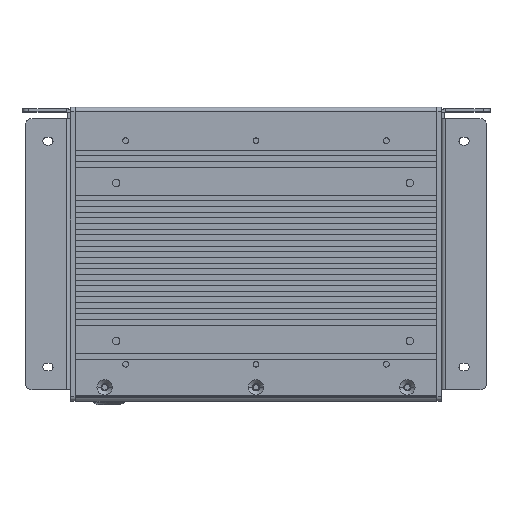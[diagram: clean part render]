
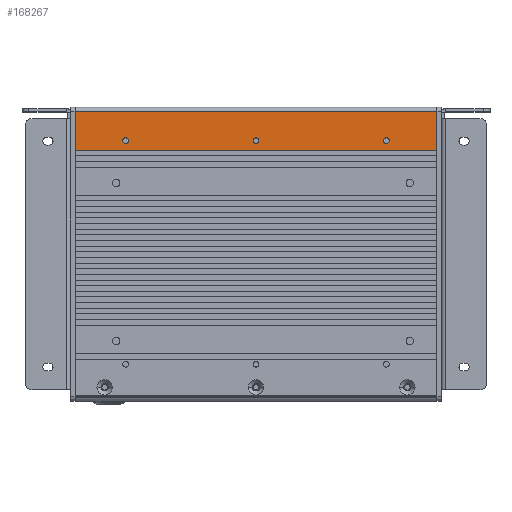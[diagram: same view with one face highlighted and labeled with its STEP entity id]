
A CAD part, top view. The second image highlights one B-rep face of the part: STEP entity #168267.
In plain terms, the highlighted planar face has unit normal (0, 0, 1) as drawn and (0, 1, 0) by its records, which use the part's own axes.
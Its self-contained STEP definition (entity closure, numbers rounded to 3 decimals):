
#2745 = FACE_BOUND ( 'NONE', #117772, .T. ) ;
#4390 = CARTESIAN_POINT ( 'NONE',  ( -50.22, 43.5, -58.98 ) ) ;
#4750 = EDGE_CURVE ( 'NONE', #197120, #17628, #39538, .T. ) ;
#5861 = VECTOR ( 'NONE', #89707, 1000. ) ;
#9374 = ORIENTED_EDGE ( 'NONE', *, *, #100954, .T. ) ;
#10229 = VECTOR ( 'NONE', #132321, 1000. ) ;
#10703 = EDGE_LOOP ( 'NONE', ( #22378, #69985, #143194, #197860 ) ) ;
#12932 = DIRECTION ( 'NONE',  ( 0., 0., -1. ) ) ;
#17628 = VERTEX_POINT ( 'NONE', #87681 ) ;
#19015 = EDGE_CURVE ( 'NONE', #17628, #197120, #46781, .T. ) ;
#20002 = AXIS2_PLACEMENT_3D ( 'NONE', #155017, #104976, #12932 ) ;
#21394 = VERTEX_POINT ( 'NONE', #29788 ) ;
#22378 = ORIENTED_EDGE ( 'NONE', *, *, #42675, .F. ) ;
#24329 = EDGE_CURVE ( 'NONE', #133634, #156736, #35083, .T. ) ;
#24345 = CARTESIAN_POINT ( 'NONE',  ( -50.22, 43.5, 1.25 ) ) ;
#29788 = CARTESIAN_POINT ( 'NONE',  ( -63., 43.5, -80.1 ) ) ;
#30749 = EDGE_CURVE ( 'NONE', #156736, #133634, #157674, .T. ) ;
#30866 = EDGE_LOOP ( 'NONE', ( #116841, #122531 ) ) ;
#32074 = DIRECTION ( 'NONE',  ( 0., -1., 0. ) ) ;
#32369 = FACE_BOUND ( 'NONE', #30866, .T. ) ;
#33376 = CARTESIAN_POINT ( 'NONE',  ( -62.5, 43.5, 80.1 ) ) ;
#33565 = DIRECTION ( 'NONE',  ( 0., 0., -1. ) ) ;
#35083 = CIRCLE ( 'NONE', #155889, 1.25 ) ;
#38592 = DIRECTION ( 'NONE',  ( 0., 0., -1. ) ) ;
#39497 = DIRECTION ( 'NONE',  ( -1., 0., 0. ) ) ;
#39538 = CIRCLE ( 'NONE', #20002, 1.25 ) ;
#42220 = VERTEX_POINT ( 'NONE', #189947 ) ;
#42675 = EDGE_CURVE ( 'NONE', #42220, #90505, #118310, .T. ) ;
#45060 = DIRECTION ( 'NONE',  ( 0., 0., 1. ) ) ;
#46781 = CIRCLE ( 'NONE', #180653, 1.25 ) ;
#48969 = AXIS2_PLACEMENT_3D ( 'NONE', #98955, #128660, #38592 ) ;
#52920 = DIRECTION ( 'NONE',  ( 0., -1., 0. ) ) ;
#53502 = EDGE_CURVE ( 'NONE', #122281, #200188, #75819, .T. ) ;
#64016 = FACE_OUTER_BOUND ( 'NONE', #10703, .T. ) ;
#64860 = CARTESIAN_POINT ( 'NONE',  ( -50.22, 43.5, -1.25 ) ) ;
#66756 = CARTESIAN_POINT ( 'NONE',  ( -50.22, 43.5, 57.73 ) ) ;
#69985 = ORIENTED_EDGE ( 'NONE', *, *, #107040, .F. ) ;
#71770 = DIRECTION ( 'NONE',  ( 0., -1., 0. ) ) ;
#75351 = CARTESIAN_POINT ( 'NONE',  ( -62.5, 43.5, -80.1 ) ) ;
#75611 = CARTESIAN_POINT ( 'NONE',  ( -63., 43.5, 80.1 ) ) ;
#75819 = CIRCLE ( 'NONE', #115140, 1.25 ) ;
#80639 = CARTESIAN_POINT ( 'NONE',  ( -50.22, 43.5, 0. ) ) ;
#85975 = AXIS2_PLACEMENT_3D ( 'NONE', #87155, #71770, #196465 ) ;
#86952 = VECTOR ( 'NONE', #45060, 1000. ) ;
#87155 = CARTESIAN_POINT ( 'NONE',  ( -50.22, 43.5, 0. ) ) ;
#87681 = CARTESIAN_POINT ( 'NONE',  ( -50.22, 43.5, 58.98 ) ) ;
#89707 = DIRECTION ( 'NONE',  ( -1., 0., 0. ) ) ;
#90505 = VERTEX_POINT ( 'NONE', #75611 ) ;
#94797 = DIRECTION ( 'NONE',  ( 0., -1., 0. ) ) ;
#97726 = ORIENTED_EDGE ( 'NONE', *, *, #24329, .T. ) ;
#98799 = DIRECTION ( 'NONE',  ( 0., 0., -1. ) ) ;
#98955 = CARTESIAN_POINT ( 'NONE',  ( -50.22, 43.5, -57.73 ) ) ;
#100954 = EDGE_CURVE ( 'NONE', #200188, #122281, #189373, .T. ) ;
#102081 = EDGE_LOOP ( 'NONE', ( #9374, #117875 ) ) ;
#104976 = DIRECTION ( 'NONE',  ( 0., -1., 0. ) ) ;
#107040 = EDGE_CURVE ( 'NONE', #155551, #42220, #147637, .T. ) ;
#108377 = VECTOR ( 'NONE', #39497, 1000. ) ;
#112144 = FACE_BOUND ( 'NONE', #102081, .T. ) ;
#115140 = AXIS2_PLACEMENT_3D ( 'NONE', #127496, #176468, #98799 ) ;
#116841 = ORIENTED_EDGE ( 'NONE', *, *, #4750, .T. ) ;
#117772 = EDGE_LOOP ( 'NONE', ( #97726, #165988 ) ) ;
#117875 = ORIENTED_EDGE ( 'NONE', *, *, #53502, .T. ) ;
#118310 = LINE ( 'NONE', #195902, #108377 ) ;
#120855 = CARTESIAN_POINT ( 'NONE',  ( -63., 43.5, 80.1 ) ) ;
#122281 = VERTEX_POINT ( 'NONE', #160745 ) ;
#122531 = ORIENTED_EDGE ( 'NONE', *, *, #19015, .T. ) ;
#122855 = LINE ( 'NONE', #120855, #86952 ) ;
#125196 = DIRECTION ( 'NONE',  ( 0., 0., -1. ) ) ;
#127496 = CARTESIAN_POINT ( 'NONE',  ( -50.22, 43.5, -57.73 ) ) ;
#128660 = DIRECTION ( 'NONE',  ( 0., -1., 0. ) ) ;
#132321 = DIRECTION ( 'NONE',  ( 0., 0., 1. ) ) ;
#133634 = VERTEX_POINT ( 'NONE', #64860 ) ;
#137213 = EDGE_CURVE ( 'NONE', #21394, #90505, #122855, .T. ) ;
#139743 = PLANE ( 'NONE',  #151198 ) ;
#143194 = ORIENTED_EDGE ( 'NONE', *, *, #181146, .T. ) ;
#147637 = LINE ( 'NONE', #196640, #10229 ) ;
#151198 = AXIS2_PLACEMENT_3D ( 'NONE', #33376, #94797, #156092 ) ;
#155017 = CARTESIAN_POINT ( 'NONE',  ( -50.22, 43.5, 57.73 ) ) ;
#155551 = VERTEX_POINT ( 'NONE', #158315 ) ;
#155889 = AXIS2_PLACEMENT_3D ( 'NONE', #80639, #52920, #33565 ) ;
#156092 = DIRECTION ( 'NONE',  ( 0., 0., -1. ) ) ;
#156424 = CARTESIAN_POINT ( 'NONE',  ( -50.22, 43.5, 56.48 ) ) ;
#156736 = VERTEX_POINT ( 'NONE', #24345 ) ;
#157674 = CIRCLE ( 'NONE', #85975, 1.25 ) ;
#158315 = CARTESIAN_POINT ( 'NONE',  ( -46., 43.5, -80.1 ) ) ;
#160745 = CARTESIAN_POINT ( 'NONE',  ( -50.22, 43.5, -56.48 ) ) ;
#165988 = ORIENTED_EDGE ( 'NONE', *, *, #30749, .T. ) ;
#168267 = ADVANCED_FACE ( 'NONE', ( #64016, #2745, #112144, #32369 ), #139743, .F. ) ;
#176468 = DIRECTION ( 'NONE',  ( 0., -1., 0. ) ) ;
#180653 = AXIS2_PLACEMENT_3D ( 'NONE', #66756, #32074, #125196 ) ;
#181146 = EDGE_CURVE ( 'NONE', #155551, #21394, #182662, .T. ) ;
#182662 = LINE ( 'NONE', #75351, #5861 ) ;
#189373 = CIRCLE ( 'NONE', #48969, 1.25 ) ;
#189947 = CARTESIAN_POINT ( 'NONE',  ( -46., 43.5, 80.1 ) ) ;
#195902 = CARTESIAN_POINT ( 'NONE',  ( -62.5, 43.5, 80.1 ) ) ;
#196465 = DIRECTION ( 'NONE',  ( 0., 0., -1. ) ) ;
#196640 = CARTESIAN_POINT ( 'NONE',  ( -46., 43.5, -80.1 ) ) ;
#197120 = VERTEX_POINT ( 'NONE', #156424 ) ;
#197860 = ORIENTED_EDGE ( 'NONE', *, *, #137213, .T. ) ;
#200188 = VERTEX_POINT ( 'NONE', #4390 ) ;
